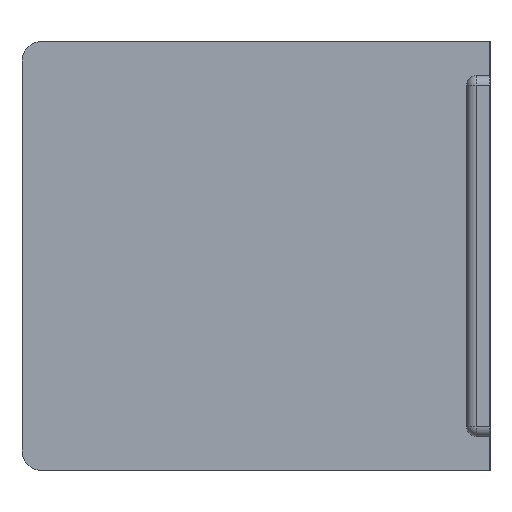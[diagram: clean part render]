
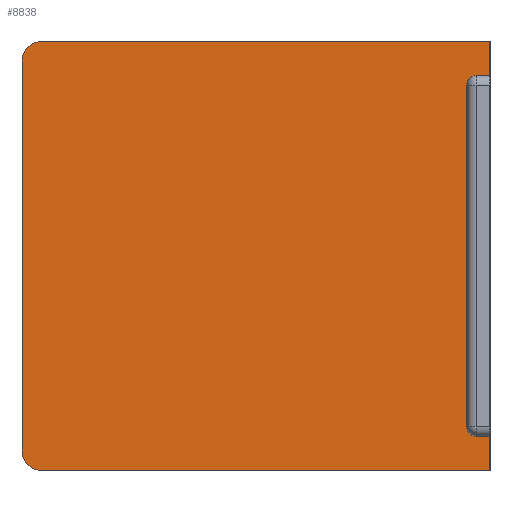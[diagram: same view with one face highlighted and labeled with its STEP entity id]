
A CAD part, left-side view. The second image highlights one B-rep face of the part: STEP entity #8838.
In plain terms, the highlighted planar face has unit normal (-1, 0, 0).
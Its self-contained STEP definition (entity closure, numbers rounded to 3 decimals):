
#159=DIRECTION('',(0.,-1.,0.));
#160=VECTOR('',#159,23.);
#161=CARTESIAN_POINT('',(0.,21.2,0.));
#162=LINE('',#161,#160);
#163=DIRECTION('',(0.,0.,-1.));
#164=VECTOR('',#163,1.75);
#165=CARTESIAN_POINT('',(0.,-1.8,0.));
#166=LINE('',#165,#164);
#167=CARTESIAN_POINT('',(0.,-1.1,-2.25));
#168=DIRECTION('',(-1.,0.,0.));
#169=DIRECTION('',(0.,0.,1.));
#170=AXIS2_PLACEMENT_3D('',#167,#168,#169);
#172=CARTESIAN_POINT('',(0.,-1.1,-19.75));
#173=DIRECTION('',(-1.,0.,0.));
#174=DIRECTION('',(0.,1.,0.));
#175=AXIS2_PLACEMENT_3D('',#172,#173,#174);
#177=DIRECTION('',(0.,-1.,0.));
#178=VECTOR('',#177,0.7);
#179=CARTESIAN_POINT('',(0.,-1.1,-20.25));
#180=LINE('',#179,#178);
#181=DIRECTION('',(0.,0.,-1.));
#182=VECTOR('',#181,1.75);
#183=CARTESIAN_POINT('',(0.,-1.8,-20.25));
#184=LINE('',#183,#182);
#185=DIRECTION('',(0.,1.,0.));
#186=VECTOR('',#185,23.);
#187=CARTESIAN_POINT('',(0.,-1.8,-22.));
#188=LINE('',#187,#186);
#189=CARTESIAN_POINT('',(0.,21.2,-21.));
#190=DIRECTION('',(1.,0.,0.));
#191=DIRECTION('',(0.,0.,-1.));
#192=AXIS2_PLACEMENT_3D('',#189,#190,#191);
#194=CARTESIAN_POINT('',(0.,21.2,-1.));
#195=DIRECTION('',(1.,0.,0.));
#196=DIRECTION('',(0.,1.,0.));
#197=AXIS2_PLACEMENT_3D('',#194,#195,#196);
#389=DIRECTION('',(0.,0.,1.));
#390=VECTOR('',#389,17.5);
#391=CARTESIAN_POINT('',(0.,-0.6,-19.75));
#392=LINE('',#391,#390);
#409=DIRECTION('',(0.,-1.,0.));
#410=VECTOR('',#409,0.7);
#411=CARTESIAN_POINT('',(0.,-1.1,-1.75));
#412=LINE('',#411,#410);
#612=DIRECTION('',(0.,0.,-1.));
#613=VECTOR('',#612,20.);
#614=CARTESIAN_POINT('',(0.,22.2,-1.));
#615=LINE('',#614,#613);
#7006=CARTESIAN_POINT('',(0.,22.2,-21.));
#7008=VERTEX_POINT('',#7006);
#7011=CARTESIAN_POINT('',(0.,22.2,-1.));
#7012=VERTEX_POINT('',#7011);
#7109=CARTESIAN_POINT('',(0.,21.2,-22.));
#7110=VERTEX_POINT('',#7109);
#7113=CARTESIAN_POINT('',(0.,21.2,0.));
#7114=CARTESIAN_POINT('',(0.,-1.8,0.));
#7115=VERTEX_POINT('',#7113);
#7116=VERTEX_POINT('',#7114);
#7117=CARTESIAN_POINT('',(0.,-1.8,-1.75));
#7118=VERTEX_POINT('',#7117);
#7119=CARTESIAN_POINT('',(0.,-1.1,-1.75));
#7120=VERTEX_POINT('',#7119);
#7121=CARTESIAN_POINT('',(0.,-0.6,-2.25));
#7122=VERTEX_POINT('',#7121);
#7123=CARTESIAN_POINT('',(0.,-0.6,-19.75));
#7124=VERTEX_POINT('',#7123);
#7125=CARTESIAN_POINT('',(0.,-1.1,-20.25));
#7126=VERTEX_POINT('',#7125);
#7127=CARTESIAN_POINT('',(0.,-1.8,-20.25));
#7128=VERTEX_POINT('',#7127);
#7129=CARTESIAN_POINT('',(0.,-1.8,-22.));
#7130=VERTEX_POINT('',#7129);
#8808=CARTESIAN_POINT('',(0.,0.2,-22.));
#8809=DIRECTION('',(-1.,0.,0.));
#8810=DIRECTION('',(0.,0.,1.));
#8811=AXIS2_PLACEMENT_3D('',#8808,#8809,#8810);
#8812=PLANE('',#8811);
#8814=ORIENTED_EDGE('',*,*,#8813,.T.);
#8816=ORIENTED_EDGE('',*,*,#8815,.T.);
#8818=ORIENTED_EDGE('',*,*,#8817,.F.);
#8820=ORIENTED_EDGE('',*,*,#8819,.T.);
#8822=ORIENTED_EDGE('',*,*,#8821,.F.);
#8824=ORIENTED_EDGE('',*,*,#8823,.T.);
#8826=ORIENTED_EDGE('',*,*,#8825,.T.);
#8828=ORIENTED_EDGE('',*,*,#8827,.T.);
#8829=ORIENTED_EDGE('',*,*,#8760,.T.);
#8831=ORIENTED_EDGE('',*,*,#8830,.T.);
#8833=ORIENTED_EDGE('',*,*,#8832,.F.);
#8835=ORIENTED_EDGE('',*,*,#8834,.T.);
#8836=EDGE_LOOP('',(#8814,#8816,#8818,#8820,#8822,#8824,#8826,#8828,#8829,#8831,
#8833,#8835));
#8837=FACE_OUTER_BOUND('',#8836,.F.);
#8838=ADVANCED_FACE('',(#8837),#8812,.T.);
#171=CIRCLE('',#170,0.5);
#176=CIRCLE('',#175,0.5);
#193=CIRCLE('',#192,1.);
#198=CIRCLE('',#197,1.);
#8760=EDGE_CURVE('',#7130,#7110,#188,.T.);
#8813=EDGE_CURVE('',#7115,#7116,#162,.T.);
#8815=EDGE_CURVE('',#7116,#7118,#166,.T.);
#8817=EDGE_CURVE('',#7120,#7118,#412,.T.);
#8819=EDGE_CURVE('',#7120,#7122,#171,.T.);
#8821=EDGE_CURVE('',#7124,#7122,#392,.T.);
#8823=EDGE_CURVE('',#7124,#7126,#176,.T.);
#8825=EDGE_CURVE('',#7126,#7128,#180,.T.);
#8827=EDGE_CURVE('',#7128,#7130,#184,.T.);
#8830=EDGE_CURVE('',#7110,#7008,#193,.T.);
#8832=EDGE_CURVE('',#7012,#7008,#615,.T.);
#8834=EDGE_CURVE('',#7012,#7115,#198,.T.);
